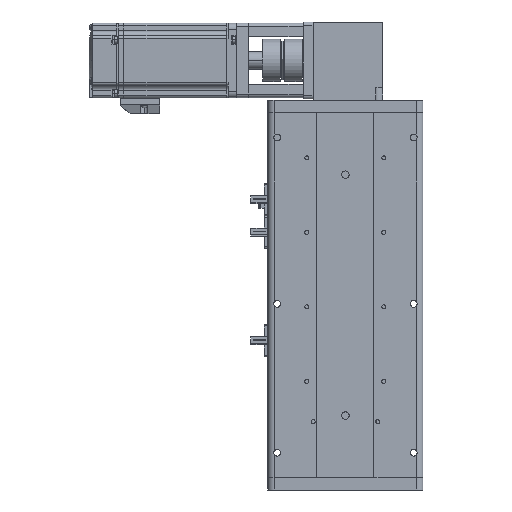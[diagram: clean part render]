
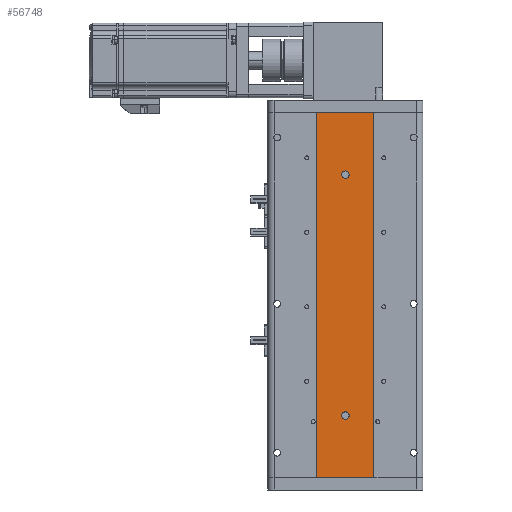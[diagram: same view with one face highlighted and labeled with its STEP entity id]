
A CAD part, front view. The second image highlights one B-rep face of the part: STEP entity #56748.
In plain terms, the highlighted planar face has unit normal (0, -1, 0).
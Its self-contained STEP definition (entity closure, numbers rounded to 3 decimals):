
#324 = EDGE_CURVE ( 'NONE', #13001, #39336, #53000, .T. ) ;
#1411 = VERTEX_POINT ( 'NONE', #46756 ) ;
#1506 = DIRECTION ( 'NONE',  ( 1., 0., 0. ) ) ;
#2149 = CARTESIAN_POINT ( 'NONE',  ( 0., 1., 100. ) ) ;
#2567 = VERTEX_POINT ( 'NONE', #34561 ) ;
#4319 = LINE ( 'NONE', #4354, #49847 ) ;
#4354 = CARTESIAN_POINT ( 'NONE',  ( -23., 1., 147.001 ) ) ;
#4448 = CARTESIAN_POINT ( 'NONE',  ( 0., 1., 97. ) ) ;
#5174 = CARTESIAN_POINT ( 'NONE',  ( 23., 1., 147.001 ) ) ;
#8783 = AXIS2_PLACEMENT_3D ( 'NONE', #35574, #9067, #40014 ) ;
#8830 = DIRECTION ( 'NONE',  ( 0., 0., -1. ) ) ;
#9067 = DIRECTION ( 'NONE',  ( 0., -1., 0. ) ) ;
#9543 = VECTOR ( 'NONE', #1506, 1000. ) ;
#9945 = AXIS2_PLACEMENT_3D ( 'NONE', #24532, #55441, #28991 ) ;
#10926 = LINE ( 'NONE', #27944, #9543 ) ;
#11684 = FACE_BOUND ( 'NONE', #16285, .T. ) ;
#13001 = VERTEX_POINT ( 'NONE', #14374 ) ;
#13662 = CARTESIAN_POINT ( 'NONE',  ( 0., 1., -100. ) ) ;
#14374 = CARTESIAN_POINT ( 'NONE',  ( -23., 1., 147. ) ) ;
#14706 = AXIS2_PLACEMENT_3D ( 'NONE', #23508, #54425, #27981 ) ;
#16285 = EDGE_LOOP ( 'NONE', ( #43717, #35588 ) ) ;
#17494 = VERTEX_POINT ( 'NONE', #38942 ) ;
#18171 = EDGE_CURVE ( 'NONE', #2567, #50360, #32880, .T. ) ;
#18322 = EDGE_CURVE ( 'NONE', #50360, #2567, #27356, .T. ) ;
#18451 = DIRECTION ( 'NONE',  ( 0., 1., 0. ) ) ;
#20019 = CARTESIAN_POINT ( 'NONE',  ( 0., 1., 94. ) ) ;
#20804 = ORIENTED_EDGE ( 'NONE', *, *, #38478, .F. ) ;
#22432 = CIRCLE ( 'NONE', #41674, 3. ) ;
#23178 = VECTOR ( 'NONE', #38107, 1000. ) ;
#23508 = CARTESIAN_POINT ( 'NONE',  ( 0., 1., -97. ) ) ;
#24532 = CARTESIAN_POINT ( 'NONE',  ( 0., 1., 97. ) ) ;
#25732 = CARTESIAN_POINT ( 'NONE',  ( 23., 1., 147. ) ) ;
#25935 = DIRECTION ( 'NONE',  ( 1., 0., 0. ) ) ;
#26347 = ORIENTED_EDGE ( 'NONE', *, *, #28261, .T. ) ;
#27343 = CIRCLE ( 'NONE', #9945, 3. ) ;
#27356 = CIRCLE ( 'NONE', #14706, 3. ) ;
#27944 = CARTESIAN_POINT ( 'NONE',  ( 23., 1., -147. ) ) ;
#27981 = DIRECTION ( 'NONE',  ( 0., 0., -1. ) ) ;
#28261 = EDGE_CURVE ( 'NONE', #17494, #1411, #10926, .T. ) ;
#28991 = DIRECTION ( 'NONE',  ( 0., 0., -1. ) ) ;
#32880 = CIRCLE ( 'NONE', #8783, 3. ) ;
#34487 = VERTEX_POINT ( 'NONE', #20019 ) ;
#34561 = CARTESIAN_POINT ( 'NONE',  ( 0., 1., -94. ) ) ;
#35309 = DIRECTION ( 'NONE',  ( 0., -1., 0. ) ) ;
#35574 = CARTESIAN_POINT ( 'NONE',  ( 0., 1., -97. ) ) ;
#35588 = ORIENTED_EDGE ( 'NONE', *, *, #18171, .F. ) ;
#36038 = PLANE ( 'NONE',  #55899 ) ;
#38107 = DIRECTION ( 'NONE',  ( 0., 0., -1. ) ) ;
#38478 = EDGE_CURVE ( 'NONE', #39336, #1411, #46695, .T. ) ;
#38942 = CARTESIAN_POINT ( 'NONE',  ( -23., 1., -147. ) ) ;
#39336 = VERTEX_POINT ( 'NONE', #41708 ) ;
#39876 = DIRECTION ( 'NONE',  ( 0., 0., -1. ) ) ;
#40014 = DIRECTION ( 'NONE',  ( 0., 0., -1. ) ) ;
#40322 = ORIENTED_EDGE ( 'NONE', *, *, #49532, .F. ) ;
#40696 = EDGE_CURVE ( 'NONE', #13001, #17494, #4319, .T. ) ;
#41674 = AXIS2_PLACEMENT_3D ( 'NONE', #4448, #35309, #8830 ) ;
#41708 = CARTESIAN_POINT ( 'NONE',  ( 23., 1., 147. ) ) ;
#42549 = CARTESIAN_POINT ( 'NONE',  ( 23., 1., 147.001 ) ) ;
#43717 = ORIENTED_EDGE ( 'NONE', *, *, #18322, .F. ) ;
#43727 = EDGE_LOOP ( 'NONE', ( #49141, #40322 ) ) ;
#45470 = FACE_BOUND ( 'NONE', #43727, .T. ) ;
#46116 = ORIENTED_EDGE ( 'NONE', *, *, #324, .F. ) ;
#46695 = LINE ( 'NONE', #42549, #23178 ) ;
#46756 = CARTESIAN_POINT ( 'NONE',  ( 23., 1., -147. ) ) ;
#46785 = EDGE_LOOP ( 'NONE', ( #53821, #26347, #20804, #46116 ) ) ;
#49141 = ORIENTED_EDGE ( 'NONE', *, *, #54101, .F. ) ;
#49319 = DIRECTION ( 'NONE',  ( 0., 0., 1. ) ) ;
#49532 = EDGE_CURVE ( 'NONE', #51189, #34487, #27343, .T. ) ;
#49847 = VECTOR ( 'NONE', #39876, 1000. ) ;
#50360 = VERTEX_POINT ( 'NONE', #13662 ) ;
#51189 = VERTEX_POINT ( 'NONE', #2149 ) ;
#51612 = VECTOR ( 'NONE', #25935, 1000. ) ;
#53000 = LINE ( 'NONE', #25732, #51612 ) ;
#53821 = ORIENTED_EDGE ( 'NONE', *, *, #40696, .T. ) ;
#54101 = EDGE_CURVE ( 'NONE', #34487, #51189, #22432, .T. ) ;
#54425 = DIRECTION ( 'NONE',  ( 0., -1., 0. ) ) ;
#55441 = DIRECTION ( 'NONE',  ( 0., -1., 0. ) ) ;
#55883 = FACE_OUTER_BOUND ( 'NONE', #46785, .T. ) ;
#55899 = AXIS2_PLACEMENT_3D ( 'NONE', #5174, #18451, #49319 ) ;
#56748 = ADVANCED_FACE ( 'NONE', ( #45470, #11684, #55883 ), #36038, .F. ) ;
